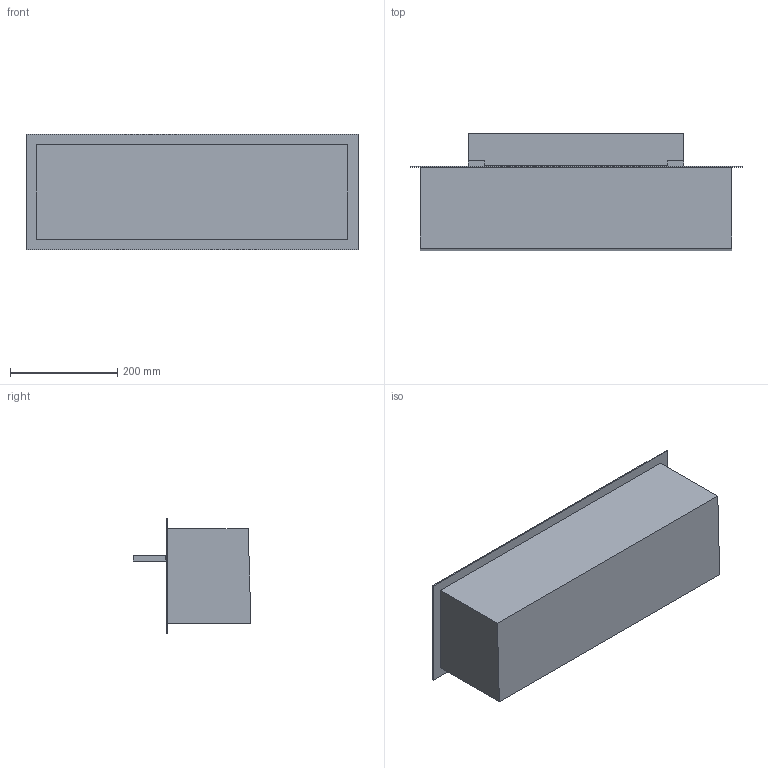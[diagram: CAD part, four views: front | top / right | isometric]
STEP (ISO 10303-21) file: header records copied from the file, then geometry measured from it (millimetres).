
FILE_DESCRIPTION (( 'STEP AP203' ), '1' );
FILE_NAME ('Denver F6.STEP', '2024-03-13T09:16:20', ( '' ), ( '' ), 'SwSTEP 2.0', 'SolidWorks 2023', '' );
FILE_SCHEMA (( 'CONFIG_CONTROL_DESIGN' ));
Length unit declared in the file: millimetre
Products named in the file (1): Denver F6
Bounding box: 620 x 220 x 215 mm (x, y, z)
Volume: 16555169 mm3; surface area: 789094.1 mm2
Topology: 8 solids, 8 shells, 68 faces, 156 edges, 104 vertices
Faces by surface type: plane 68
Entity records: 1955 total; most frequent: CARTESIAN_POINT 329, ORIENTED_EDGE 312, DIRECTION 294, VECTOR 156, LINE 156, EDGE_CURVE 156, VERTEX_POINT 104, EDGE_LOOP 74
